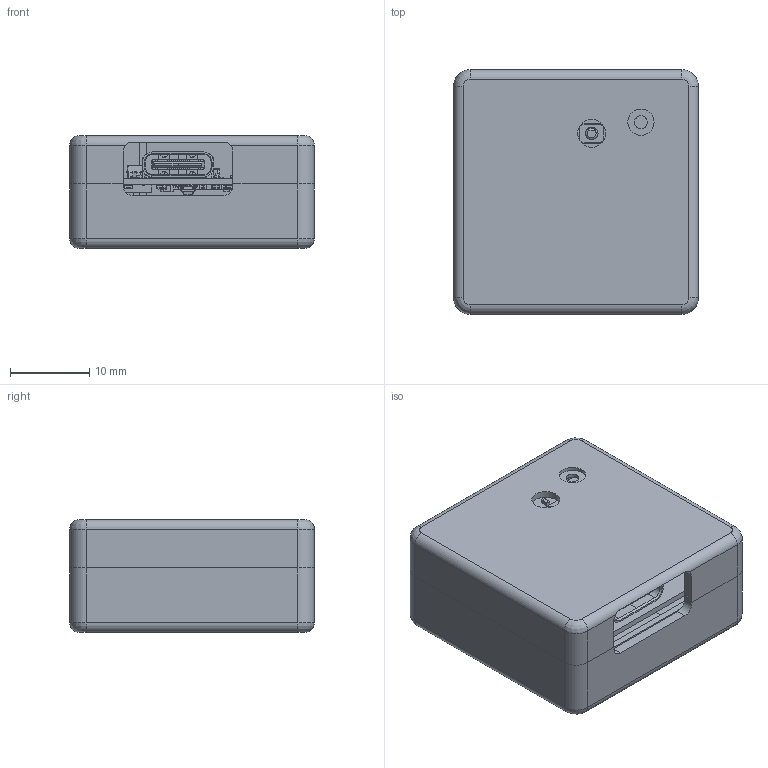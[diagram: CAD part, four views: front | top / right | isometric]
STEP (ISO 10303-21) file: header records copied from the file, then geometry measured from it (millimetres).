
FILE_DESCRIPTION(('Open CASCADE Model'),'2;1');
FILE_NAME('Open CASCADE Shape Model','2026-10-29T14:13:48',('Author'),( 'Open CASCADE'),'Open CASCADE STEP processor 7.9','Open CASCADE 7.9' ,'Unknown');
FILE_SCHEMA(('AUTOMOTIVE_DESIGN { 1 0 10303 214 1 1 1 1 }'));
Length unit declared in the file: millimetre
Products named in the file (6): captured_carrier_case; lower; upper; carrier; pcba; battery
Assembly tree (5 placements, depth 2):
  captured_carrier_case
    lower
    upper
    carrier
    pcba
    battery
Bounding box: 30.8 x 30.8 x 14.2 mm (x, y, z)
Volume: 6525.8 mm3; surface area: 12368.9 mm2
Topology: 108 solids, 108 shells, 3332 faces, 8678 edges, 5597 vertices
Faces by surface type: plane 2320, cylinder 867, bspline 126, revolution 8, cone 8, sphere 2, torus 1
Full cylindrical faces by diameter (mm): 0.25 x1, 0.5 x2, 0.65 x2, 0.8 x1, 1.6 x2, 2 x1, 3.3 x1, 3.5 x1
Entity records: 217390 total; most frequent: CARTESIAN_POINT 43193, DIRECTION 32579, LINE 21727, VECTOR 21727, ORIENTED_EDGE 17360, PCURVE 17352, DEFINITIONAL_REPRESENTATION 17352, EDGE_CURVE 8676
